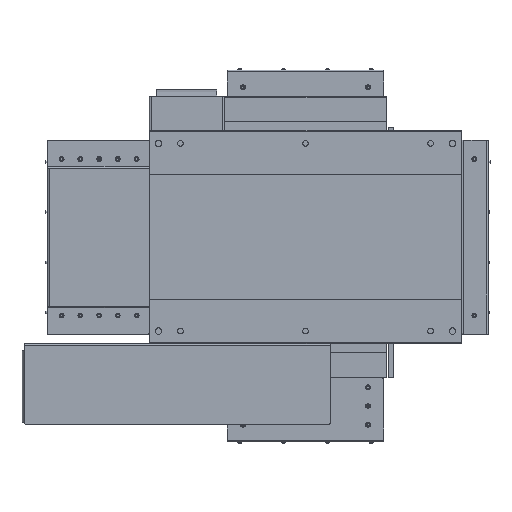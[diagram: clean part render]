
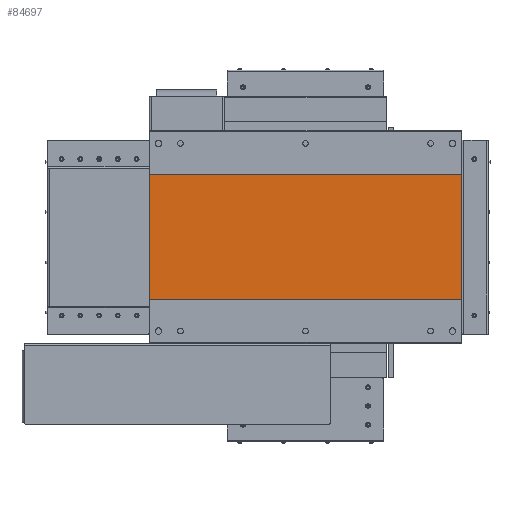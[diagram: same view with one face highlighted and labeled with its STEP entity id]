
A CAD part, front view. The second image highlights one B-rep face of the part: STEP entity #84697.
In plain terms, the highlighted planar face has unit normal (0, -1, 0).
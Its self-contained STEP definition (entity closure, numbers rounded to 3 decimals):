
#2757 = LINE ( 'NONE', #104210, #5291 ) ;
#5291 = VECTOR ( 'NONE', #39224, 1000. ) ;
#12393 = ORIENTED_EDGE ( 'NONE', *, *, #37818, .F. ) ;
#13248 = EDGE_CURVE ( 'NONE', #76005, #51763, #56159, .T. ) ;
#21881 = CARTESIAN_POINT ( 'NONE',  ( -250., 0.5, -100. ) ) ;
#25141 = CARTESIAN_POINT ( 'NONE',  ( 250., 0.5, 100. ) ) ;
#26899 = DIRECTION ( 'NONE',  ( 0., 0., -1. ) ) ;
#28950 = EDGE_CURVE ( 'NONE', #54999, #76005, #2757, .T. ) ;
#30061 = DIRECTION ( 'NONE',  ( -1., 0., 0. ) ) ;
#30717 = LINE ( 'NONE', #100149, #40910 ) ;
#30972 = CARTESIAN_POINT ( 'NONE',  ( -250., 0.5, -100. ) ) ;
#37818 = EDGE_CURVE ( 'NONE', #39768, #54999, #56669, .T. ) ;
#38508 = FACE_OUTER_BOUND ( 'NONE', #81381, .T. ) ;
#39224 = DIRECTION ( 'NONE',  ( 0., 0., 1. ) ) ;
#39523 = CARTESIAN_POINT ( 'NONE',  ( -250., 0.5, 100. ) ) ;
#39768 = VERTEX_POINT ( 'NONE', #95167 ) ;
#40910 = VECTOR ( 'NONE', #100495, 1000. ) ;
#51763 = VERTEX_POINT ( 'NONE', #100872 ) ;
#51998 = DIRECTION ( 'NONE',  ( 0., 1., 0. ) ) ;
#52151 = ORIENTED_EDGE ( 'NONE', *, *, #28950, .F. ) ;
#53495 = ORIENTED_EDGE ( 'NONE', *, *, #13248, .F. ) ;
#54999 = VERTEX_POINT ( 'NONE', #30972 ) ;
#55449 = VECTOR ( 'NONE', #30061, 1000. ) ;
#56159 = LINE ( 'NONE', #39523, #61223 ) ;
#56669 = LINE ( 'NONE', #21881, #55449 ) ;
#61223 = VECTOR ( 'NONE', #95690, 1000. ) ;
#61302 = ORIENTED_EDGE ( 'NONE', *, *, #87729, .F. ) ;
#76005 = VERTEX_POINT ( 'NONE', #85174 ) ;
#81381 = EDGE_LOOP ( 'NONE', ( #53495, #52151, #12393, #61302 ) ) ;
#84697 = ADVANCED_FACE ( 'NONE', ( #38508 ), #100401, .F. ) ;
#85174 = CARTESIAN_POINT ( 'NONE',  ( -250., 0.5, 100. ) ) ;
#87729 = EDGE_CURVE ( 'NONE', #51763, #39768, #30717, .T. ) ;
#95167 = CARTESIAN_POINT ( 'NONE',  ( 250., 0.5, -100. ) ) ;
#95690 = DIRECTION ( 'NONE',  ( 1., 0., 0. ) ) ;
#97925 = AXIS2_PLACEMENT_3D ( 'NONE', #25141, #51998, #26899 ) ;
#100149 = CARTESIAN_POINT ( 'NONE',  ( 250., 0.5, 100. ) ) ;
#100401 = PLANE ( 'NONE',  #97925 ) ;
#100495 = DIRECTION ( 'NONE',  ( 0., 0., -1. ) ) ;
#100872 = CARTESIAN_POINT ( 'NONE',  ( 250., 0.5, 100. ) ) ;
#104210 = CARTESIAN_POINT ( 'NONE',  ( -250., 0.5, 100. ) ) ;
